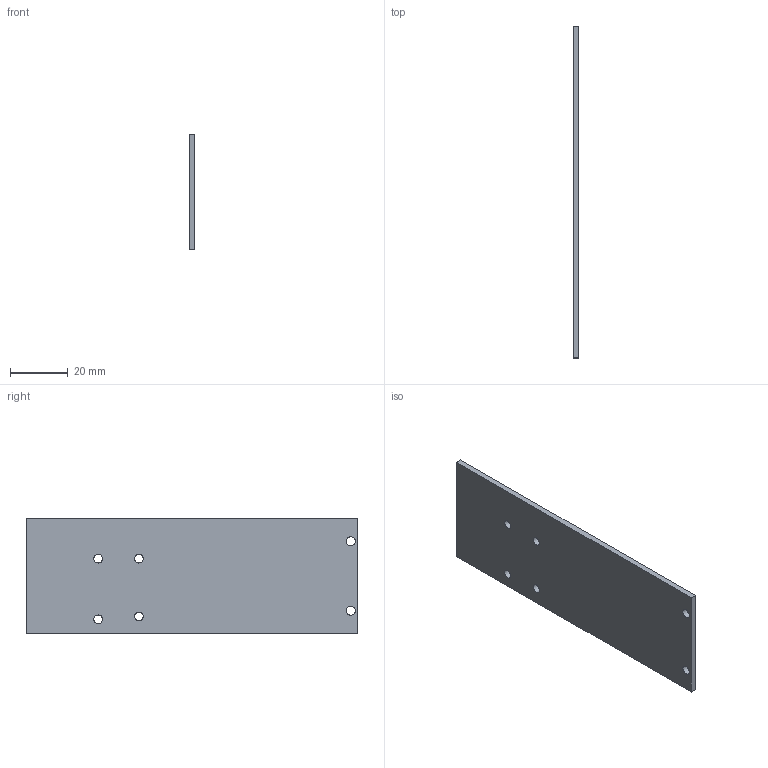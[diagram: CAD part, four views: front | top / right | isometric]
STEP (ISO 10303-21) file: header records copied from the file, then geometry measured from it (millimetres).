
FILE_DESCRIPTION(/* description */ ('Unknown'),/* implementation_level */ '2;1');
FILE_NAME(/* name */ '9_PMT_mount_part1',/* time_stamp */ '2020-07-03T18:49:01+02:00',/* author */ ('Unknown'),/* organization */ ('Unknown'),/* preprocessor_version */ 'ST-DEVELOPER v16.7',/* originating_system */ 'Solid Edge',/* authorisation */ 'Unknown');
FILE_SCHEMA (('AUTOMOTIVE_DESIGN {1 0 10303 214 3 1 1}'));
Length unit declared in the file: millimetre
Products named in the file (1): 9_PMT_mount_part1
Bounding box: 2 x 115 x 40 mm (x, y, z)
Volume: 9111.3 mm3; surface area: 9846.9 mm2
Topology: 1 solids, 1 shells, 12 faces, 30 edges, 20 vertices
Faces by surface type: plane 6, cylinder 6
Full cylindrical faces by diameter (mm): 3 x4, 3.2 x2
Entity records: 390 total; most frequent: DIRECTION 62, CARTESIAN_POINT 57, ORIENTED_EDGE 48, EDGE_LOOP 30, FACE_BOUND 30, AXIS2_PLACEMENT_3D 25, EDGE_CURVE 24, VERTEX_POINT 20
